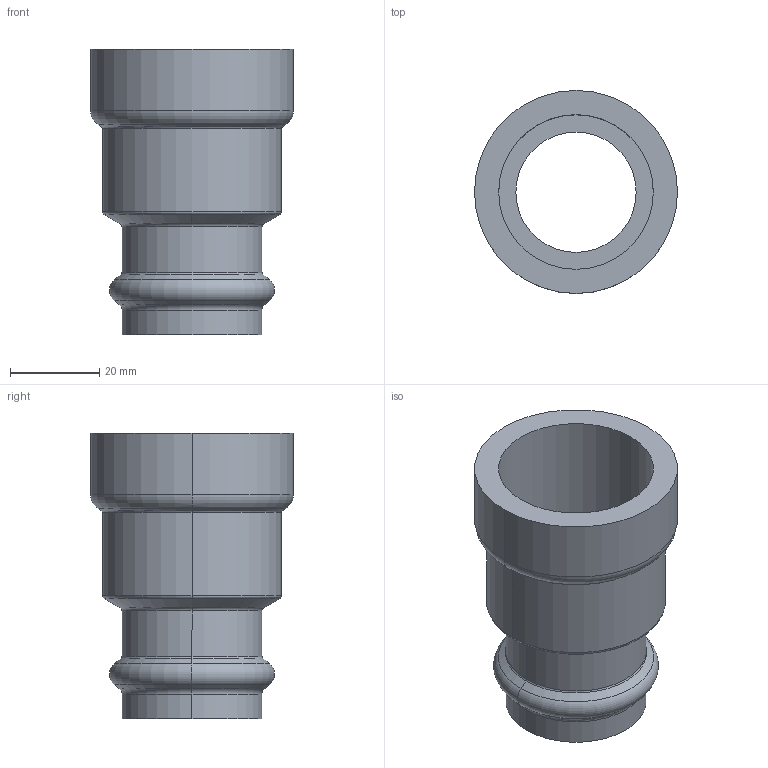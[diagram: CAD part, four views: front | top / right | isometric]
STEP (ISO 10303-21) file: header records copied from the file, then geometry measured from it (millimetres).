
FILE_DESCRIPTION(('Creo Elements/Direct Modeling STEP Export'),'2;1');
FILE_NAME('C9440_1_28.stp','2020-07-20T11:43:28',(''),(''),'PTC Creo Elements/Direct Modeling STEP processor for AP214 (Solid Model)','PTC Creo Elements/Direct Modeling 19.0C 15-Aug-2015 (C) Parametric Technology GmbH','');
FILE_SCHEMA(('AUTOMOTIVE_DESIGN { 1 0 10303 214 1 1 1 1 }'));
Length unit declared in the file: millimetre
Products named in the file (2): C9440_1_28
Assembly tree (1 placements, depth 2):
  C9440_1_28
    C9440_1_28
Bounding box: 45.4 x 45.4 x 63.92 mm (x, y, z)
Volume: 23512.6 mm3; surface area: 15982.8 mm2
Topology: 1 solids, 1 shells, 40 faces, 97 edges, 61 vertices
Faces by surface type: torus 14, cylinder 14, cone 8, plane 4
Entity records: 1062 total; most frequent: ORIENTED_EDGE 194, DIRECTION 178, CARTESIAN_POINT 161, EDGE_CURVE 97, AXIS2_PLACEMENT_3D 78, VERTEX_POINT 61, EDGE_LOOP 44, FACE_OUTER_BOUND 40
